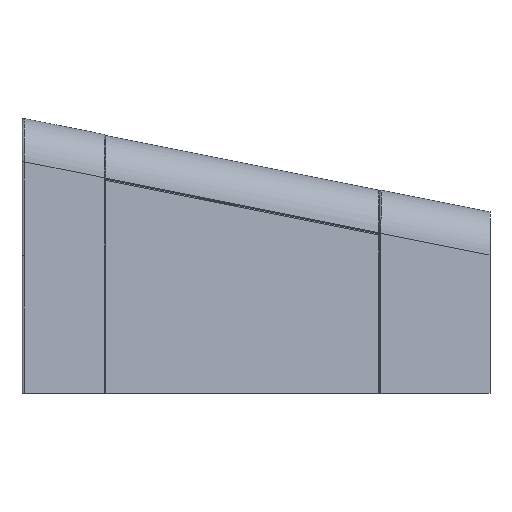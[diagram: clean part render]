
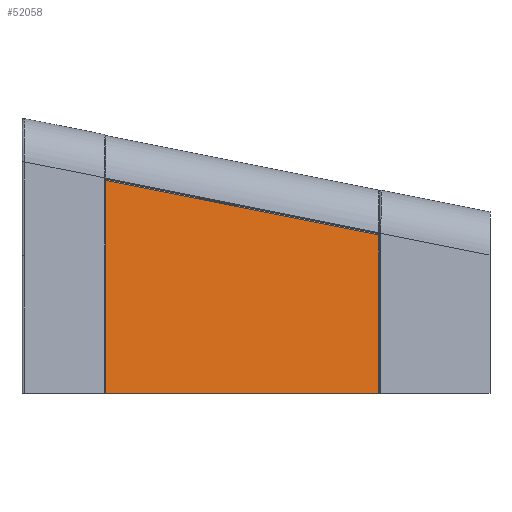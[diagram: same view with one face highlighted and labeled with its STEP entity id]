
A CAD part, left-side view. The second image highlights one B-rep face of the part: STEP entity #52058.
In plain terms, the highlighted planar face has unit normal (-0.981, -0.196, 0) as drawn and (0.981, 0, 0.196) by its records, which use the part's own axes.
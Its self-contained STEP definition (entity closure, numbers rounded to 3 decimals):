
#1019 = VERTEX_POINT ( 'NONE', #22975 ) ;
#5685 = VERTEX_POINT ( 'NONE', #81965 ) ;
#6498 = DIRECTION ( 'NONE',  ( -0.196, 0., 0.981 ) ) ;
#7450 = CARTESIAN_POINT ( 'NONE',  ( 219.667, 250., 1.667 ) ) ;
#8878 = ORIENTED_EDGE ( 'NONE', *, *, #25762, .T. ) ;
#13805 = CARTESIAN_POINT ( 'NONE',  ( 220., 250., 0. ) ) ;
#20199 = LINE ( 'NONE', #13805, #24554 ) ;
#20302 = EDGE_CURVE ( 'NONE', #5685, #44249, #68587, .T. ) ;
#22975 = CARTESIAN_POINT ( 'NONE',  ( 219.667, -137.059, 1.667 ) ) ;
#24554 = VECTOR ( 'NONE', #6498, 1000. ) ;
#25762 = EDGE_CURVE ( 'NONE', #41898, #5685, #20199, .T. ) ;
#27543 = DIRECTION ( 'NONE',  ( 0., 1., 0. ) ) ;
#28006 = LINE ( 'NONE', #7450, #50136 ) ;
#33472 = CARTESIAN_POINT ( 'NONE',  ( 120.392, -690., 498.039 ) ) ;
#33680 = EDGE_LOOP ( 'NONE', ( #8878, #89306, #41436, #50456 ) ) ;
#37036 = DIRECTION ( 'NONE',  ( 0.196, 0., -0.981 ) ) ;
#37593 = VECTOR ( 'NONE', #61286, 1000. ) ;
#38636 = LINE ( 'NONE', #71519, #78806 ) ;
#41436 = ORIENTED_EDGE ( 'NONE', *, *, #71149, .T. ) ;
#41898 = VERTEX_POINT ( 'NONE', #84093 ) ;
#43692 = DIRECTION ( 'NONE',  ( 0.192, -0.192, -0.962 ) ) ;
#44249 = VERTEX_POINT ( 'NONE', #46732 ) ;
#46732 = CARTESIAN_POINT ( 'NONE',  ( 120.392, -37.785, 498.039 ) ) ;
#50136 = VECTOR ( 'NONE', #27543, 1000. ) ;
#50456 = ORIENTED_EDGE ( 'NONE', *, *, #83247, .T. ) ;
#52058 = ADVANCED_FACE ( 'NONE', ( #84926 ), #79004, .T. ) ;
#56653 = CARTESIAN_POINT ( 'NONE',  ( 220., -690., 0. ) ) ;
#61286 = DIRECTION ( 'NONE',  ( 0., -1., 0. ) ) ;
#68587 = LINE ( 'NONE', #33472, #37593 ) ;
#71149 = EDGE_CURVE ( 'NONE', #44249, #1019, #38636, .T. ) ;
#71519 = CARTESIAN_POINT ( 'NONE',  ( 240.467, -157.86, -102.335 ) ) ;
#78806 = VECTOR ( 'NONE', #43692, 1000. ) ;
#79004 = PLANE ( 'NONE',  #90013 ) ;
#81965 = CARTESIAN_POINT ( 'NONE',  ( 120.392, 250., 498.039 ) ) ;
#83247 = EDGE_CURVE ( 'NONE', #1019, #41898, #28006, .T. ) ;
#84093 = CARTESIAN_POINT ( 'NONE',  ( 219.667, 250., 1.667 ) ) ;
#84484 = DIRECTION ( 'NONE',  ( 0.981, 0., 0.196 ) ) ;
#84926 = FACE_OUTER_BOUND ( 'NONE', #33680, .T. ) ;
#89306 = ORIENTED_EDGE ( 'NONE', *, *, #20302, .T. ) ;
#90013 = AXIS2_PLACEMENT_3D ( 'NONE', #56653, #84484, #37036 ) ;
